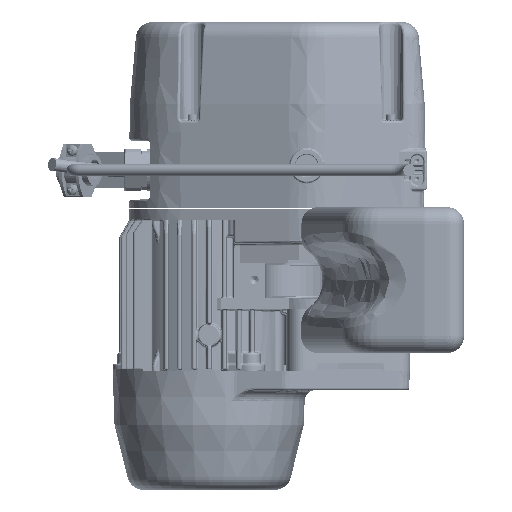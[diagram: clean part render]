
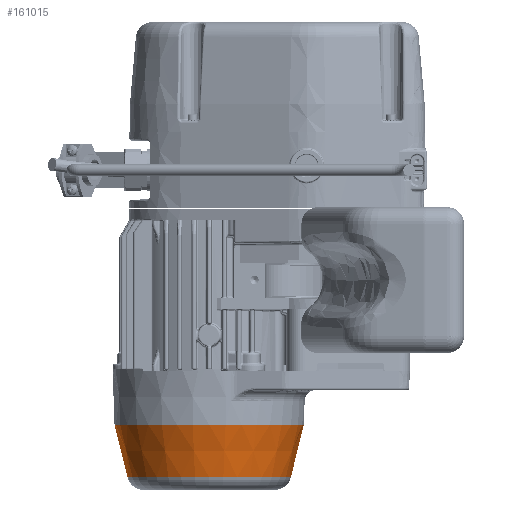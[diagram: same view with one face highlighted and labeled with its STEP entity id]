
A CAD part, front view. The second image highlights one B-rep face of the part: STEP entity #161015.
In plain terms, the highlighted conical face has half-angle 13.829 degrees and reference radius 70 mm.
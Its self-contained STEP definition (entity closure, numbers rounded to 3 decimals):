
#18025 = CARTESIAN_POINT ( 'NONE',  ( 70., 0., -106. ) ) ;
#18449 = CARTESIAN_POINT ( 'NONE',  ( 0., 0., -94.585 ) ) ;
#27007 = LINE ( 'NONE', #112964, #180582 ) ;
#33179 = VERTEX_POINT ( 'NONE', #141824 ) ;
#40430 = DIRECTION ( 'NONE',  ( 0., 0., 1. ) ) ;
#47850 = ORIENTED_EDGE ( 'NONE', *, *, #251177, .T. ) ;
#55172 = CONICAL_SURFACE ( 'NONE', #272045, 70., 0.241 ) ;
#60220 = AXIS2_PLACEMENT_3D ( 'NONE', #18449, #182037, #251299 ) ;
#68603 = DIRECTION ( 'NONE',  ( -0.239, 0., 0.971 ) ) ;
#79025 = LINE ( 'NONE', #18025, #168830 ) ;
#96662 = EDGE_CURVE ( 'NONE', #33179, #207844, #27007, .T. ) ;
#105016 = ORIENTED_EDGE ( 'NONE', *, *, #96662, .F. ) ;
#108331 = DIRECTION ( 'NONE',  ( 1., 0., 0. ) ) ;
#112964 = CARTESIAN_POINT ( 'NONE',  ( -70., 0., -106. ) ) ;
#114096 = EDGE_CURVE ( 'NONE', #167162, #202402, #79025, .T. ) ;
#114683 = DIRECTION ( 'NONE',  ( 0., 0., -1. ) ) ;
#119286 = DIRECTION ( 'NONE',  ( 0.239, 0., 0.971 ) ) ;
#141824 = CARTESIAN_POINT ( 'NONE',  ( -72.81, 0., -94.585 ) ) ;
#145991 = EDGE_CURVE ( 'NONE', #202402, #207844, #220951, .T. ) ;
#156965 = CARTESIAN_POINT ( 'NONE',  ( 84.332, 0., -47.778 ) ) ;
#157570 = CARTESIAN_POINT ( 'NONE',  ( 0., 0., -47.778 ) ) ;
#161015 = ADVANCED_FACE ( 'NONE', ( #251125 ), #55172, .T. ) ;
#167162 = VERTEX_POINT ( 'NONE', #231867 ) ;
#168830 = VECTOR ( 'NONE', #119286, 1000. ) ;
#179715 = CIRCLE ( 'NONE', #60220, 72.81 ) ;
#180573 = AXIS2_PLACEMENT_3D ( 'NONE', #157570, #114683, #182419 ) ;
#180582 = VECTOR ( 'NONE', #68603, 1000. ) ;
#182037 = DIRECTION ( 'NONE',  ( 0., 0., 1. ) ) ;
#182419 = DIRECTION ( 'NONE',  ( -1., 0., 0. ) ) ;
#194133 = ORIENTED_EDGE ( 'NONE', *, *, #114096, .T. ) ;
#200589 = CARTESIAN_POINT ( 'NONE',  ( -84.332, 0., -47.778 ) ) ;
#202402 = VERTEX_POINT ( 'NONE', #156965 ) ;
#207844 = VERTEX_POINT ( 'NONE', #200589 ) ;
#220951 = CIRCLE ( 'NONE', #180573, 84.332 ) ;
#224609 = ORIENTED_EDGE ( 'NONE', *, *, #145991, .T. ) ;
#230265 = CARTESIAN_POINT ( 'NONE',  ( 0., 0., -106. ) ) ;
#231867 = CARTESIAN_POINT ( 'NONE',  ( 72.81, 0., -94.585 ) ) ;
#251125 = FACE_OUTER_BOUND ( 'NONE', #265149, .T. ) ;
#251177 = EDGE_CURVE ( 'NONE', #33179, #167162, #179715, .T. ) ;
#251299 = DIRECTION ( 'NONE',  ( -1., 0., 0. ) ) ;
#265149 = EDGE_LOOP ( 'NONE', ( #105016, #47850, #194133, #224609 ) ) ;
#272045 = AXIS2_PLACEMENT_3D ( 'NONE', #230265, #40430, #108331 ) ;
